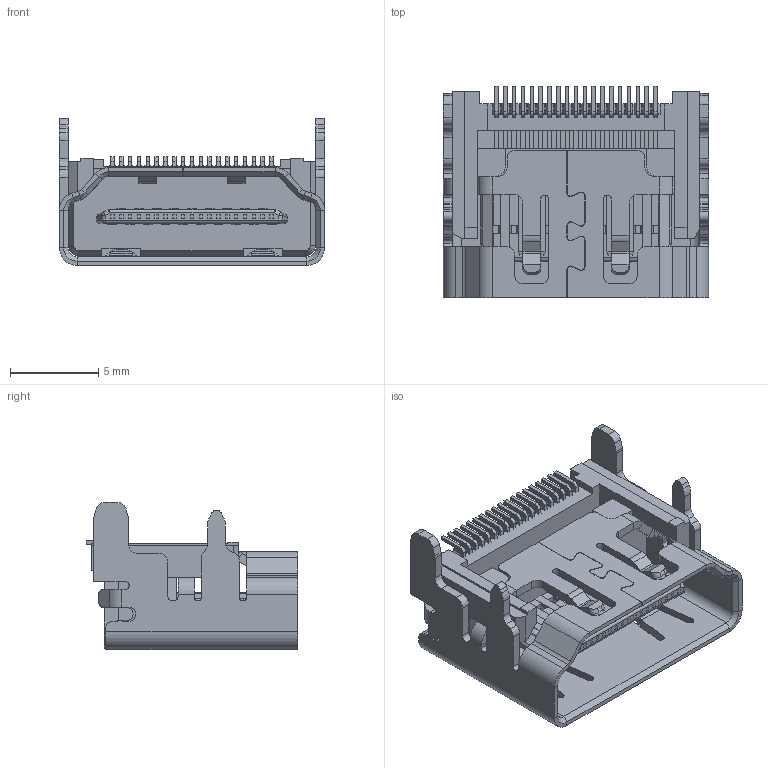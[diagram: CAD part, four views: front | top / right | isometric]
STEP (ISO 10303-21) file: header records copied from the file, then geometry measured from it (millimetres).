
FILE_DESCRIPTION (( 'STEP AP203' ), '1' );
FILE_NAME ('GT-HD001A-XXXGX.STEP', '2024-06-25T10:03:10', ( '' ), ( '' ), 'SwSTEP 2.0', 'SolidWorks 2023', '' );
FILE_SCHEMA (( 'CONFIG_CONTROL_DESIGN' ));
Length unit declared in the file: millimetre
Products named in the file (1): GT-HD001A-XXXGX
Bounding box: 15 x 11.95 x 8.32 mm (x, y, z)
Volume: 477.2 mm3; surface area: 1613.4 mm2
Topology: 21 solids, 21 shells, 2194 faces, 5363 edges, 3264 vertices
Faces by surface type: plane 1493, cylinder 447, bspline 234, cone 10, sphere 10
Entity records: 68147 total; most frequent: CARTESIAN_POINT 18569, ORIENTED_EDGE 10718, DIRECTION 9278, EDGE_CURVE 5359, VECTOR 3876, LINE 3876, VERTEX_POINT 3264, AXIS2_PLACEMENT_3D 2701
